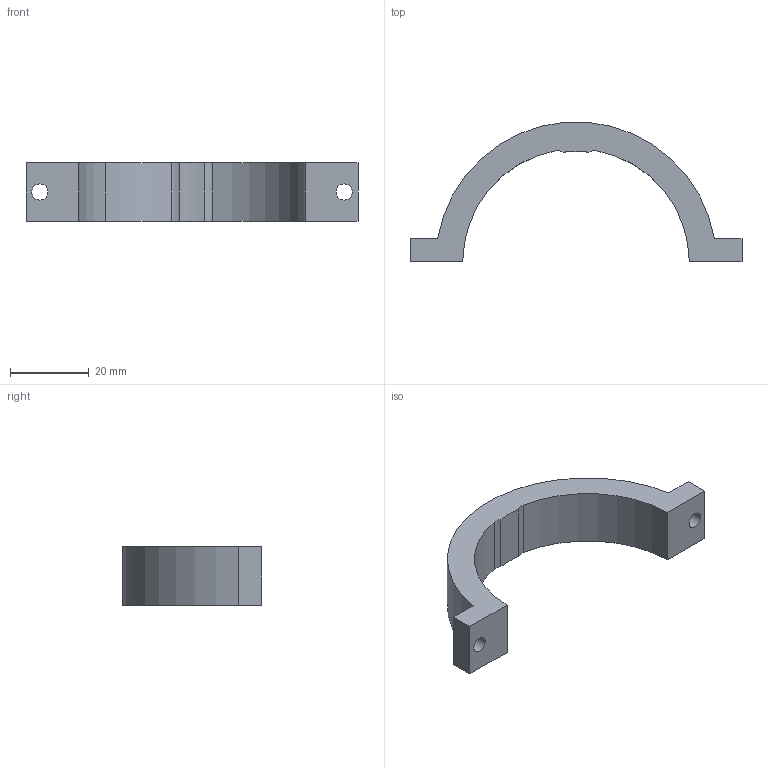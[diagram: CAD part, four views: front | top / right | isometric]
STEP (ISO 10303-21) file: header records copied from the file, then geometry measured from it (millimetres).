
FILE_DESCRIPTION (( 'STEP AP203' ), '1' );
FILE_NAME ('昜噩殤蜊奻.step', '2026-04-15T11:44:49', ( 'user' ), ( 'dfgadg' ), 'SwSTEP 2.0', 'SolidWorks 2025', '' );
FILE_SCHEMA (( 'CONFIG_CONTROL_DESIGN' ));
Length unit declared in the file: millimetre
Products named in the file (1): 物镜架改上
Bounding box: 84.1 x 35.29 x 14.7 mm (x, y, z)
Volume: 11209.9 mm3; surface area: 5201.6 mm2
Topology: 1 solids, 1 shells, 19 faces, 51 edges, 34 vertices
Faces by surface type: cylinder 11, plane 8
Entity records: 692 total; most frequent: DIRECTION 113, CARTESIAN_POINT 105, ORIENTED_EDGE 102, EDGE_CURVE 51, AXIS2_PLACEMENT_3D 42, VERTEX_POINT 34, VECTOR 29, LINE 29
